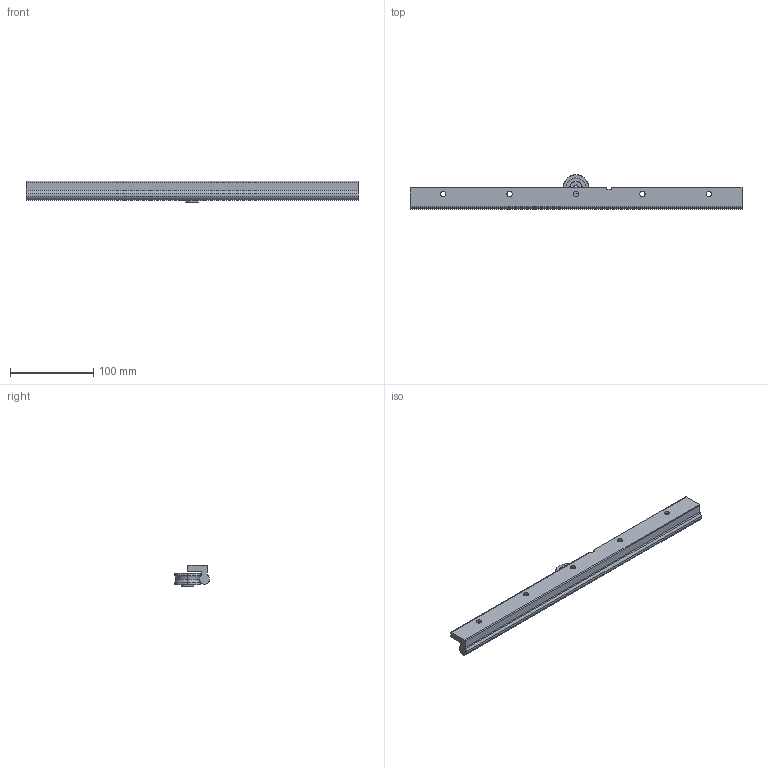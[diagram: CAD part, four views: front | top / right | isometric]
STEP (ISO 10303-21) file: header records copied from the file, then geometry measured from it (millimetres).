
FILE_DESCRIPTION (( 'STEP AP214' ), '1' );
FILE_NAME ('FXRG43-400 (RNVG43-UP).STEP', '2021-11-18T14:03:14', ( '' ), ( '' ), 'SwSTEP 2.0', 'SolidWorks 2021', '' );
FILE_SCHEMA (( 'AUTOMOTIVE_DESIGN' ));
Length unit declared in the file: millimetre
Products named in the file (4): _FXRG 400-RNVG43 UP.stp; _RNVG43(15_M8).stp; FXRG43-400 (RNVG43-UP).stp; FXRG43-400 (RNVG43-UP)
Assembly tree (3 placements, depth 3):
  FXRG43-400 (RNVG43-UP)
    FXRG43-400 (RNVG43-UP).stp
      _FXRG 400-RNVG43 UP.stp
      _RNVG43(15_M8).stp
Bounding box: 400 x 42.04 x 25.5 mm (x, y, z)
Volume: 133850.1 mm3; surface area: 42077.7 mm2
Topology: 2 solids, 2 shells, 107 faces, 250 edges, 158 vertices
Faces by surface type: cylinder 46, plane 33, cone 24, torus 4
Entity records: 3242 total; most frequent: DIRECTION 604, CARTESIAN_POINT 522, ORIENTED_EDGE 500, EDGE_CURVE 250, AXIS2_PLACEMENT_3D 240, VERTEX_POINT 158, EDGE_LOOP 130, CIRCLE 126
